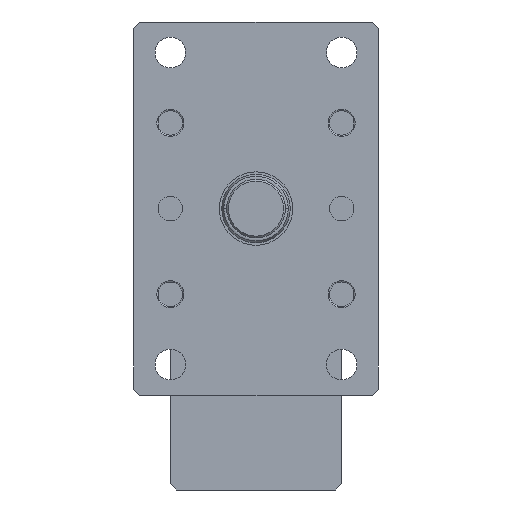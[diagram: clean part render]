
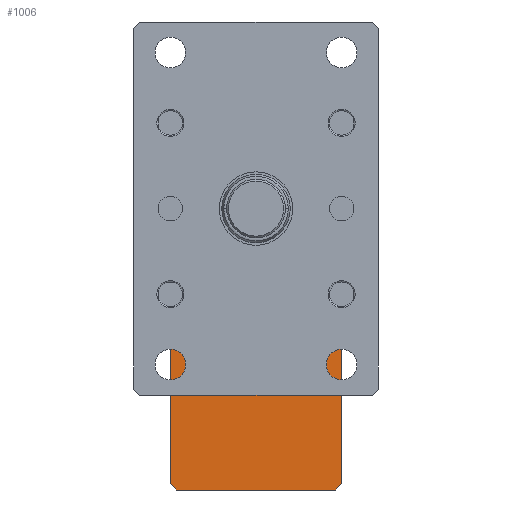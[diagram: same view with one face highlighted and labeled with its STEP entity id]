
A CAD part, left-side view. The second image highlights one B-rep face of the part: STEP entity #1006.
In plain terms, the highlighted planar face has unit normal (-1, 0, 0).
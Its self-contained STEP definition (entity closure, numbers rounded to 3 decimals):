
#13 = DIRECTION ( 'NONE',  ( 0., 1., 0. ) ) ;
#411 = LINE ( 'NONE', #4619, #3862 ) ;
#430 = LINE ( 'NONE', #8385, #2026 ) ;
#599 = VERTEX_POINT ( 'NONE', #6626 ) ;
#755 = ORIENTED_EDGE ( 'NONE', *, *, #3093, .T. ) ;
#781 = CARTESIAN_POINT ( 'NONE',  ( 427.5, -65., -90. ) ) ;
#855 = DIRECTION ( 'NONE',  ( 0., 0., 1. ) ) ;
#1006 = ADVANCED_FACE ( 'NONE', ( #5751 ), #3457, .F. ) ;
#1017 = LINE ( 'NONE', #1165, #2623 ) ;
#1081 = CARTESIAN_POINT ( 'NONE',  ( 427.5, -70., -95. ) ) ;
#1165 = CARTESIAN_POINT ( 'NONE',  ( 427.5, 70., -90. ) ) ;
#1199 = EDGE_CURVE ( 'NONE', #3297, #4466, #2609, .T. ) ;
#1416 = VERTEX_POINT ( 'NONE', #4421 ) ;
#1729 = LINE ( 'NONE', #1081, #8591 ) ;
#1850 = DIRECTION ( 'NONE',  ( 0., 1., 0. ) ) ;
#2026 = VECTOR ( 'NONE', #855, 1000. ) ;
#2041 = LINE ( 'NONE', #7432, #3673 ) ;
#2076 = CARTESIAN_POINT ( 'NONE',  ( 427.5, -65., -230. ) ) ;
#2144 = ORIENTED_EDGE ( 'NONE', *, *, #2577, .F. ) ;
#2488 = CARTESIAN_POINT ( 'NONE',  ( 427.5, -65., -230. ) ) ;
#2577 = EDGE_CURVE ( 'NONE', #3297, #2859, #430, .T. ) ;
#2609 = LINE ( 'NONE', #8455, #4247 ) ;
#2623 = VECTOR ( 'NONE', #1850, 1000. ) ;
#2727 = VECTOR ( 'NONE', #3187, 1000. ) ;
#2837 = VERTEX_POINT ( 'NONE', #5944 ) ;
#2859 = VERTEX_POINT ( 'NONE', #8024 ) ;
#2990 = VECTOR ( 'NONE', #5732, 1000. ) ;
#3093 = EDGE_CURVE ( 'NONE', #1416, #599, #6650, .T. ) ;
#3138 = CARTESIAN_POINT ( 'NONE',  ( 427.5, 65., -230. ) ) ;
#3187 = DIRECTION ( 'NONE',  ( 0., -0.707, 0.707 ) ) ;
#3297 = VERTEX_POINT ( 'NONE', #4595 ) ;
#3334 = DIRECTION ( 'NONE',  ( 0., 1., 0. ) ) ;
#3457 = PLANE ( 'NONE',  #6310 ) ;
#3665 = CARTESIAN_POINT ( 'NONE',  ( 427.5, -70., -230. ) ) ;
#3673 = VECTOR ( 'NONE', #3334, 1000. ) ;
#3683 = DIRECTION ( 'NONE',  ( 0., -0.707, -0.707 ) ) ;
#3862 = VECTOR ( 'NONE', #3917, 1000. ) ;
#3917 = DIRECTION ( 'NONE',  ( 0., 0.707, -0.707 ) ) ;
#4115 = ORIENTED_EDGE ( 'NONE', *, *, #7172, .T. ) ;
#4138 = DIRECTION ( 'NONE',  ( 1., 0., 0. ) ) ;
#4168 = EDGE_LOOP ( 'NONE', ( #755, #4115, #4889, #7251, #2144, #5210, #6060, #5298 ) ) ;
#4247 = VECTOR ( 'NONE', #3683, 1000. ) ;
#4421 = CARTESIAN_POINT ( 'NONE',  ( 427.5, -70., -225. ) ) ;
#4466 = VERTEX_POINT ( 'NONE', #3138 ) ;
#4595 = CARTESIAN_POINT ( 'NONE',  ( 427.5, 70., -225. ) ) ;
#4619 = CARTESIAN_POINT ( 'NONE',  ( 427.5, 70., -95. ) ) ;
#4889 = ORIENTED_EDGE ( 'NONE', *, *, #6265, .T. ) ;
#5043 = VERTEX_POINT ( 'NONE', #781 ) ;
#5210 = ORIENTED_EDGE ( 'NONE', *, *, #1199, .T. ) ;
#5298 = ORIENTED_EDGE ( 'NONE', *, *, #6444, .T. ) ;
#5357 = EDGE_CURVE ( 'NONE', #2837, #2859, #411, .T. ) ;
#5732 = DIRECTION ( 'NONE',  ( 0., 0., 1. ) ) ;
#5751 = FACE_OUTER_BOUND ( 'NONE', #4168, .T. ) ;
#5944 = CARTESIAN_POINT ( 'NONE',  ( 427.5, 65., -90. ) ) ;
#6060 = ORIENTED_EDGE ( 'NONE', *, *, #7348, .F. ) ;
#6265 = EDGE_CURVE ( 'NONE', #5043, #2837, #1017, .T. ) ;
#6310 = AXIS2_PLACEMENT_3D ( 'NONE', #8231, #4138, #13 ) ;
#6394 = LINE ( 'NONE', #2488, #2727 ) ;
#6444 = EDGE_CURVE ( 'NONE', #8532, #1416, #6394, .T. ) ;
#6626 = CARTESIAN_POINT ( 'NONE',  ( 427.5, -70., -95. ) ) ;
#6650 = LINE ( 'NONE', #3665, #2990 ) ;
#7172 = EDGE_CURVE ( 'NONE', #599, #5043, #1729, .T. ) ;
#7251 = ORIENTED_EDGE ( 'NONE', *, *, #5357, .T. ) ;
#7348 = EDGE_CURVE ( 'NONE', #8532, #4466, #2041, .T. ) ;
#7432 = CARTESIAN_POINT ( 'NONE',  ( 427.5, 70., -230. ) ) ;
#8024 = CARTESIAN_POINT ( 'NONE',  ( 427.5, 70., -95. ) ) ;
#8231 = CARTESIAN_POINT ( 'NONE',  ( 427.5, 70., -230. ) ) ;
#8385 = CARTESIAN_POINT ( 'NONE',  ( 427.5, 70., -230. ) ) ;
#8455 = CARTESIAN_POINT ( 'NONE',  ( 427.5, 65., -230. ) ) ;
#8532 = VERTEX_POINT ( 'NONE', #2076 ) ;
#8591 = VECTOR ( 'NONE', #8599, 1000. ) ;
#8599 = DIRECTION ( 'NONE',  ( 0., 0.707, 0.707 ) ) ;
